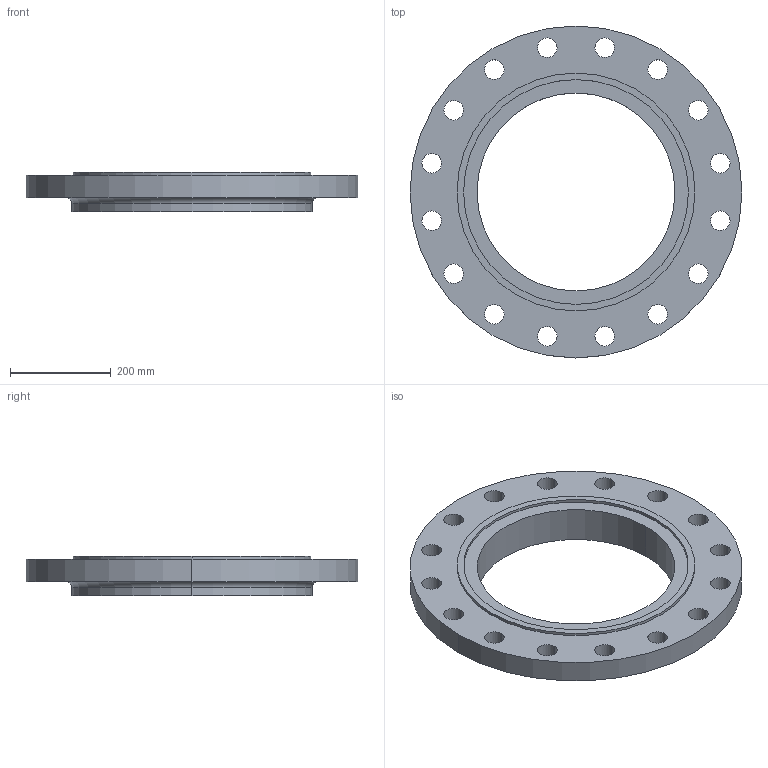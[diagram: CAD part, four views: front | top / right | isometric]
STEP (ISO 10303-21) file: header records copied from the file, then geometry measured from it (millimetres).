
FILE_DESCRIPTION (( 'STEP AP214' ), '1' );
FILE_NAME ('PN40 DN400 Type 13 - Type C Face.STEP', '2019-01-05T23:15:59', ( '' ), ( '' ), 'SwSTEP 2.0', 'SolidWorks 2019', '' );
FILE_SCHEMA (( 'AUTOMOTIVE_DESIGN' ));
Length unit declared in the file: millimetre
Products named in the file (1): PN40 DN400 Type 13 - Type C Face
Bounding box: 660 x 660 x 78 mm (x, y, z)
Volume: 10731492.1 mm3; surface area: 722184.6 mm2
Topology: 1 solids, 1 shells, 49 faces, 130 edges, 86 vertices
Faces by surface type: cylinder 42, plane 5, torus 2
Entity records: 1678 total; most frequent: DIRECTION 318, CARTESIAN_POINT 266, ORIENTED_EDGE 260, AXIS2_PLACEMENT_3D 138, EDGE_CURVE 130, CIRCLE 88, EDGE_LOOP 86, VERTEX_POINT 86
